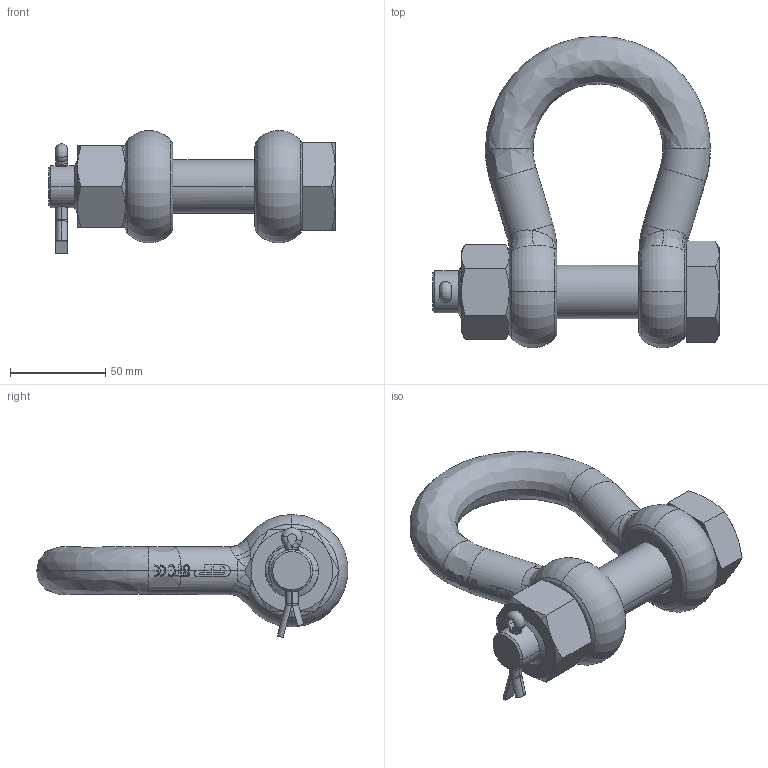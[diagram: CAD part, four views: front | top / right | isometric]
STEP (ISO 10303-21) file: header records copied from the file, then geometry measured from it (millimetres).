
FILE_DESCRIPTION (( 'STEP AP203' ), '1' );
FILE_NAME ('SUGHMB25.STEP', '2009-08-26T14:07:02', ( '.' ), ( '.' ), 'SwSTEP 2.0', 'SolidWorks 2009', '' );
FILE_SCHEMA (( 'CONFIG_CONTROL_DESIGN' ));
Length unit declared in the file: millimetre
Products named in the file (5): 12,5; 12,5_1; SUGHMB25; 12,5_2; 12,5_3
Assembly tree (4 placements, depth 2):
  SUGHMB25
    12,5_3
    12,5_2
    12,5
    12,5_1
Bounding box: 150 x 163.28 x 64.55 mm (x, y, z)
Volume: 339620.1 mm3; surface area: 67126.3 mm2
Topology: 4 solids, 4 shells, 719 faces, 1976 edges, 1275 vertices
Faces by surface type: bspline 306, plane 266, cylinder 108, cone 28, torus 11
Entity records: 37905 total; most frequent: CARTESIAN_POINT 21858, ORIENTED_EDGE 3922, DIRECTION 2139, EDGE_CURVE 1961, VERTEX_POINT 1275, VECTOR 863, LINE 863, B_SPLINE_CURVE_WITH_KNOTS 766
